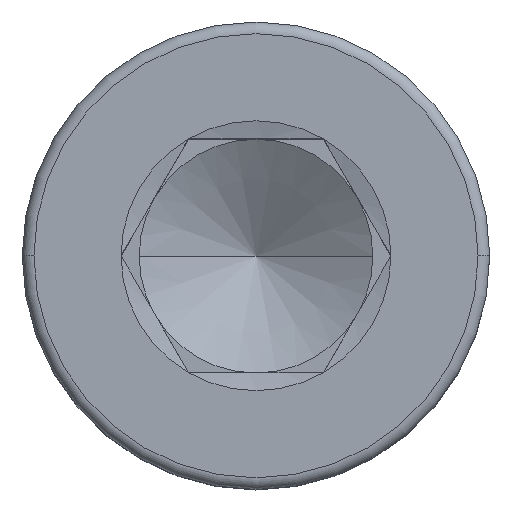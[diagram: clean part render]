
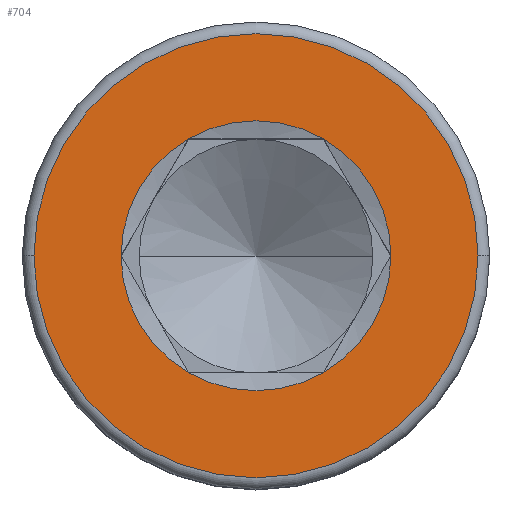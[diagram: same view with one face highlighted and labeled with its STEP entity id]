
A CAD part, top view. The second image highlights one B-rep face of the part: STEP entity #704.
In plain terms, the highlighted planar face has unit normal (0, 0, 1).
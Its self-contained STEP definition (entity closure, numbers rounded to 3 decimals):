
#34 = CARTESIAN_POINT ( 'NONE',  ( 3.8, 0., 5. ) ) ;
#59 = DIRECTION ( 'NONE',  ( 1., 0., 0. ) ) ;
#67 = AXIS2_PLACEMENT_3D ( 'NONE', #930, #602, #1198 ) ;
#111 = EDGE_CURVE ( 'NONE', #313, #1173, #598, .T. ) ;
#118 = DIRECTION ( 'NONE',  ( 0., 0., 1. ) ) ;
#138 = AXIS2_PLACEMENT_3D ( 'NONE', #1672, #1660, #960 ) ;
#139 = VERTEX_POINT ( 'NONE', #1645 ) ;
#163 = DIRECTION ( 'NONE',  ( 0., 0., 1. ) ) ;
#194 = CARTESIAN_POINT ( 'NONE',  ( 0., 0., 5. ) ) ;
#212 = CARTESIAN_POINT ( 'NONE',  ( -3.8, 0., 5. ) ) ;
#222 = ORIENTED_EDGE ( 'NONE', *, *, #1887, .F. ) ;
#233 = AXIS2_PLACEMENT_3D ( 'NONE', #1848, #118, #1286 ) ;
#236 = CARTESIAN_POINT ( 'NONE',  ( -2.309, 0., 5. ) ) ;
#261 = ORIENTED_EDGE ( 'NONE', *, *, #455, .F. ) ;
#263 = EDGE_CURVE ( 'NONE', #1173, #1260, #329, .T. ) ;
#313 = VERTEX_POINT ( 'NONE', #499 ) ;
#329 = CIRCLE ( 'NONE', #1063, 2.309 ) ;
#412 = AXIS2_PLACEMENT_3D ( 'NONE', #661, #1100, #1377 ) ;
#455 = EDGE_CURVE ( 'NONE', #1266, #1609, #1232, .T. ) ;
#499 = CARTESIAN_POINT ( 'NONE',  ( 1.155, -2., 5. ) ) ;
#516 = ORIENTED_EDGE ( 'NONE', *, *, #263, .F. ) ;
#598 = CIRCLE ( 'NONE', #1668, 2.309 ) ;
#602 = DIRECTION ( 'NONE',  ( 0., 0., 1. ) ) ;
#605 = DIRECTION ( 'NONE',  ( 1., 0., 0. ) ) ;
#661 = CARTESIAN_POINT ( 'NONE',  ( 0., 0., 5. ) ) ;
#704 = ADVANCED_FACE ( 'NONE', ( #915, #1633 ), #902, .T. ) ;
#731 = ORIENTED_EDGE ( 'NONE', *, *, #798, .T. ) ;
#744 = AXIS2_PLACEMENT_3D ( 'NONE', #1066, #986, #1691 ) ;
#763 = DIRECTION ( 'NONE',  ( 1., 0., 0. ) ) ;
#778 = DIRECTION ( 'NONE',  ( 0., 0., 1. ) ) ;
#783 = ORIENTED_EDGE ( 'NONE', *, *, #920, .F. ) ;
#798 = EDGE_CURVE ( 'NONE', #1570, #1278, #1764, .T. ) ;
#807 = CARTESIAN_POINT ( 'NONE',  ( 1.155, 2., 5. ) ) ;
#836 = ORIENTED_EDGE ( 'NONE', *, *, #1521, .F. ) ;
#888 = DIRECTION ( 'NONE',  ( 1., 0., 0. ) ) ;
#902 = PLANE ( 'NONE',  #1850 ) ;
#915 = FACE_OUTER_BOUND ( 'NONE', #1415, .T. ) ;
#920 = EDGE_CURVE ( 'NONE', #1260, #139, #1786, .T. ) ;
#921 = DIRECTION ( 'NONE',  ( 0., 0., 1. ) ) ;
#930 = CARTESIAN_POINT ( 'NONE',  ( 0., 0., 5. ) ) ;
#960 = DIRECTION ( 'NONE',  ( 1., 0., 0. ) ) ;
#986 = DIRECTION ( 'NONE',  ( 0., 0., 1. ) ) ;
#991 = CARTESIAN_POINT ( 'NONE',  ( 0., 0., 5. ) ) ;
#1028 = CIRCLE ( 'NONE', #1790, 2.309 ) ;
#1055 = CARTESIAN_POINT ( 'NONE',  ( 0., 0., 5. ) ) ;
#1059 = CIRCLE ( 'NONE', #233, 2.309 ) ;
#1063 = AXIS2_PLACEMENT_3D ( 'NONE', #194, #778, #763 ) ;
#1066 = CARTESIAN_POINT ( 'NONE',  ( 0., 0., 5. ) ) ;
#1067 = CARTESIAN_POINT ( 'NONE',  ( 0., 0., 5. ) ) ;
#1100 = DIRECTION ( 'NONE',  ( 0., 0., 1. ) ) ;
#1165 = ORIENTED_EDGE ( 'NONE', *, *, #1700, .T. ) ;
#1173 = VERTEX_POINT ( 'NONE', #1504 ) ;
#1198 = DIRECTION ( 'NONE',  ( 1., 0., 0. ) ) ;
#1232 = CIRCLE ( 'NONE', #744, 2.309 ) ;
#1242 = CIRCLE ( 'NONE', #412, 3.8 ) ;
#1260 = VERTEX_POINT ( 'NONE', #807 ) ;
#1266 = VERTEX_POINT ( 'NONE', #236 ) ;
#1278 = VERTEX_POINT ( 'NONE', #212 ) ;
#1286 = DIRECTION ( 'NONE',  ( 1., 0., 0. ) ) ;
#1346 = EDGE_LOOP ( 'NONE', ( #516, #1595, #222, #261, #836, #783 ) ) ;
#1377 = DIRECTION ( 'NONE',  ( 1., 0., 0. ) ) ;
#1415 = EDGE_LOOP ( 'NONE', ( #731, #1165 ) ) ;
#1495 = CARTESIAN_POINT ( 'NONE',  ( -1.155, -2., 5. ) ) ;
#1504 = CARTESIAN_POINT ( 'NONE',  ( 2.309, 0., 5. ) ) ;
#1521 = EDGE_CURVE ( 'NONE', #139, #1266, #1028, .T. ) ;
#1570 = VERTEX_POINT ( 'NONE', #34 ) ;
#1595 = ORIENTED_EDGE ( 'NONE', *, *, #111, .F. ) ;
#1609 = VERTEX_POINT ( 'NONE', #1495 ) ;
#1633 = FACE_BOUND ( 'NONE', #1346, .T. ) ;
#1645 = CARTESIAN_POINT ( 'NONE',  ( -1.155, 2., 5. ) ) ;
#1660 = DIRECTION ( 'NONE',  ( 0., 0., 1. ) ) ;
#1668 = AXIS2_PLACEMENT_3D ( 'NONE', #991, #1860, #888 ) ;
#1672 = CARTESIAN_POINT ( 'NONE',  ( 0., 0., 5. ) ) ;
#1691 = DIRECTION ( 'NONE',  ( 1., 0., 0. ) ) ;
#1700 = EDGE_CURVE ( 'NONE', #1278, #1570, #1242, .T. ) ;
#1764 = CIRCLE ( 'NONE', #67, 3.8 ) ;
#1786 = CIRCLE ( 'NONE', #138, 2.309 ) ;
#1790 = AXIS2_PLACEMENT_3D ( 'NONE', #1067, #163, #605 ) ;
#1848 = CARTESIAN_POINT ( 'NONE',  ( 0., 0., 5. ) ) ;
#1850 = AXIS2_PLACEMENT_3D ( 'NONE', #1055, #921, #59 ) ;
#1860 = DIRECTION ( 'NONE',  ( 0., 0., 1. ) ) ;
#1887 = EDGE_CURVE ( 'NONE', #1609, #313, #1059, .T. ) ;
